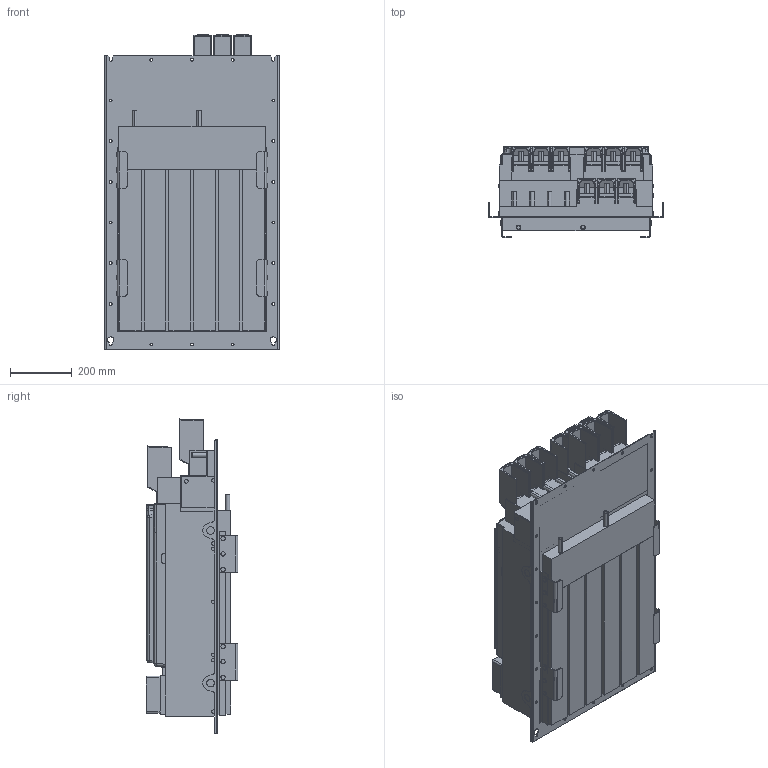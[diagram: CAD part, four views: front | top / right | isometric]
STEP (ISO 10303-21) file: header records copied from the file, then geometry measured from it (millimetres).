
FILE_DESCRIPTION (( 'STEP AP214' ), '1' );
FILE_NAME ('F6-9TW5-P151.STEP', '2022-12-21T10:52:09', ( '' ), ( '' ), 'SwSTEP 2.0', 'SolidWorks 2022', '' );
FILE_SCHEMA (( 'AUTOMOTIVE_DESIGN' ));
Length unit declared in the file: millimetre
Products named in the file (13): 10051555_000_Kundenmodell mit BW; Kundenmodell mit BW^10068274_000; 10014325_000; 10049764_000_Kundenmodell; Kundenmodell^10049764_000; 10051076_000_Kundenmodell; 10054881_000_Deckel (Kundenmodell); F6-9TW5-P151; Kundenmodell^10059764_000; 10068274_000_Kundenmodell mit BW; Kundenmodell^10051076_000_Kundenmodell mit Geberbuchsen; 10059764_000_Blindabdeckung (Kundenmodell); Kundenmodell^10054881_000
Assembly tree (12 placements, depth 4):
  F6-9TW5-P151
    10051555_000_Kundenmodell mit BW
      10068274_000_Kundenmodell mit BW
        Kundenmodell mit BW^10068274_000
    10049764_000_Kundenmodell
      Kundenmodell^10049764_000
    10051076_000_Kundenmodell
      10014325_000
      10059764_000_Blindabdeckung (Kundenmodell)
        Kundenmodell^10059764_000
      Kundenmodell^10051076_000_Kundenmodell mit Geberbuchsen
    10054881_000_Deckel (Kundenmodell)
      Kundenmodell^10054881_000
Bounding box: 566 x 296.5 x 1024.88 mm (x, y, z)
Volume: 97767925 mm3; surface area: 4286896.5 mm2
Topology: 6 solids, 6 shells, 2756 faces, 7190 edges, 4506 vertices
Faces by surface type: plane 1300, cylinder 900, bspline 271, cone 120, sphere 92, torus 73
Entity records: 93902 total; most frequent: CARTESIAN_POINT 27705, ORIENTED_EDGE 14212, DIRECTION 12962, EDGE_CURVE 7106, VERTEX_POINT 4506, AXIS2_PLACEMENT_3D 4330, LINE 4302, VECTOR 4302
